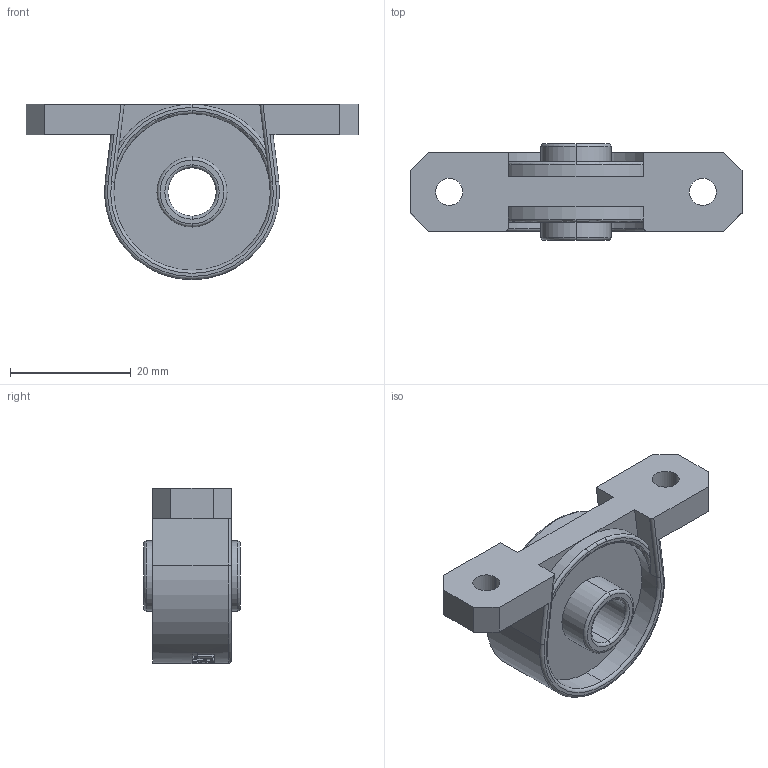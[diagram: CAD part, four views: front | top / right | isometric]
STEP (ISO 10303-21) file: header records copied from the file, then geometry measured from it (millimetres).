
FILE_DESCRIPTION (( 'STEP AP203' ), '1' );
FILE_NAME ('8MM.STEP', '2017-08-14T12:59:29', ( '' ), ( '' ), 'SwSTEP 2.0', 'SolidWorks 2014', '' );
FILE_SCHEMA (( 'CONFIG_CONTROL_DESIGN' ));
Length unit declared in the file: millimetre
Products named in the file (1): 8MM
Bounding box: 55 x 16 x 29 mm (x, y, z)
Volume: 6711.3 mm3; surface area: 5094.2 mm2
Topology: 1 solids, 1 shells, 151 faces, 404 edges, 264 vertices
Faces by surface type: plane 72, bspline 32, cylinder 29, torus 18
Entity records: 9997 total; most frequent: CARTESIAN_POINT 6376, ORIENTED_EDGE 808, DIRECTION 633, EDGE_CURVE 404, VERTEX_POINT 264, AXIS2_PLACEMENT_3D 236, EDGE_LOOP 166, LINE 161
